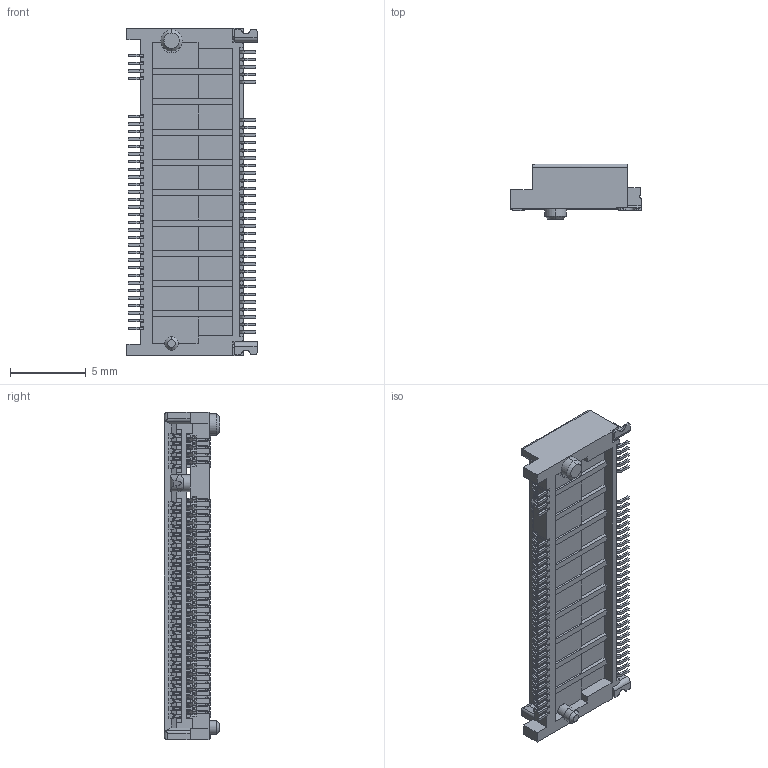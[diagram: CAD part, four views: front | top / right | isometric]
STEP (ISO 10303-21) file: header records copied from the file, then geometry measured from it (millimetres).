
FILE_DESCRIPTION((''),'2;1');
FILE_NAME('123A-30M00_C_1','2026-10-06T',('tim.lee'),(''),'CREO PARAMETRIC BY PTC INC, 2015080','CREO PARAMETRIC BY PTC INC, 2015080','');
FILE_SCHEMA(('CONFIG_CONTROL_DESIGN'));
Products named in the file (1): 123A-30M00_C_1
Bounding box: 8.6 x 3.65 x 21.6 mm (x, y, z)
Volume: 225.4 mm3; surface area: 1386.9 mm2
Topology: 1 solids, 1 shells, 6891 faces, 20397 edges, 13380 vertices
Faces by surface type: plane 5464, cylinder 1422, cone 4, bspline 1
Entity records: 227994 total; most frequent: CARTESIAN_POINT 41627, ORIENTED_EDGE 40794, DIRECTION 36715, EDGE_CURVE 20397, VECTOR 17395, LINE 17395, VERTEX_POINT 13380, AXIS2_PLACEMENT_3D 9660
